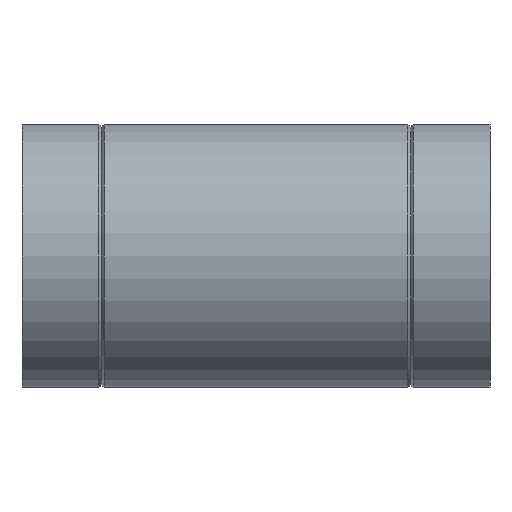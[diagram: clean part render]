
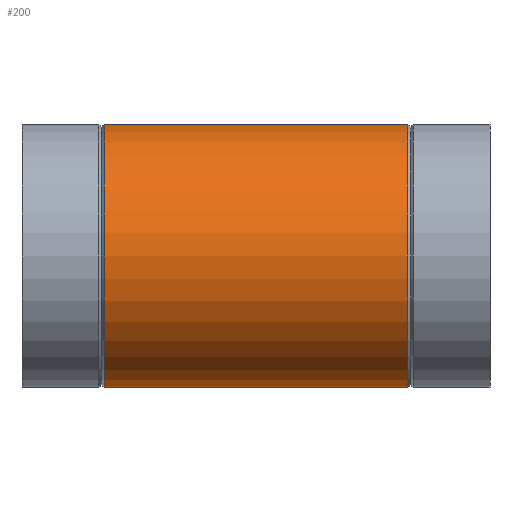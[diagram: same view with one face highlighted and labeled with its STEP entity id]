
A CAD part, left-side view. The second image highlights one B-rep face of the part: STEP entity #200.
In plain terms, the highlighted cylindrical face has radius 157.5 mm (diameter 315 mm), a full revolution.
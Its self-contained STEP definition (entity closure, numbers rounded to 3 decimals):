
#15=B_SPLINE_CURVE_WITH_KNOTS($,3,(#325,#326,#327,#328,#329,#330,#331,#332,
#333,#334,#335,#336,#337,#338,#339,#340,#341,#342,#343,#344,#345,#346,#347,
#348,#349,#350,#351,#352,#353,#354,#355,#356,#357,#358,#359,#360,#361,#362,
#363,#364,#365,#366,#367,#368,#369,#370,#371,#372,#373,#374,#375,#376,#377,
#378,#379,#380,#381,#382,#383,#384,#385,#386,#387,#388,#389,#390,#391,#392,
#393,#394,#395,#396,#397,#398),.UNSPECIFIED.,.T.,.F.,(4,2,2,2,2,2,2,2,2,
2,2,2,2,2,2,2,2,2,2,2,2,2,2,2,2,2,2,2,2,2,2,2,2,2,2,2,4),(0.,1.291,
2.583,5.166,7.748,10.331,12.813,
15.294,17.776,20.258,22.739,25.221,
27.703,30.185,32.767,35.35,37.933,
39.224,40.516,41.782,43.048,45.581,
48.113,50.646,53.127,55.607,58.088,
60.569,63.05,65.53,68.011,70.492,
73.024,75.557,78.09,79.356,80.622),
 .UNSPECIFIED.);
#17=CYLINDRICAL_SURFACE($,#222,157.5);
#26=FACE_BOUND($,#63,.T.);
#27=FACE_BOUND($,#64,.T.);
#48=FACE_OUTER_BOUND($,#62,.T.);
#62=EDGE_LOOP($,(#145));
#63=EDGE_LOOP($,(#146));
#64=EDGE_LOOP($,(#147));
#94=CIRCLE($,#221,157.5);
#95=CIRCLE($,#223,157.5);
#109=VERTEX_POINT($,#319);
#110=VERTEX_POINT($,#322);
#111=VERTEX_POINT($,#324);
#126=EDGE_CURVE($,#109,#109,#94,.T.);
#127=EDGE_CURVE($,#110,#110,#95,.T.);
#128=EDGE_CURVE($,#111,#111,#15,.T.);
#145=ORIENTED_EDGE($,*,*,#127,.T.);
#146=ORIENTED_EDGE($,*,*,#128,.T.);
#147=ORIENTED_EDGE($,*,*,#126,.T.);
#200=ADVANCED_FACE($,(#48,#26,#27),#17,.T.);
#221=AXIS2_PLACEMENT_3D($,#320,#258,#259);
#222=AXIS2_PLACEMENT_3D($,#321,#260,#261);
#223=AXIS2_PLACEMENT_3D($,#323,#262,#263);
#258=DIRECTION('center_axis',(0.,-1.,0.));
#259=DIRECTION('ref_axis',(1.,0.,0.));
#260=DIRECTION('center_axis',(0.,1.,0.));
#261=DIRECTION('ref_axis',(1.,0.,0.));
#262=DIRECTION('center_axis',(0.,1.,0.));
#263=DIRECTION('ref_axis',(1.,0.,0.));
#319=CARTESIAN_POINT('',(157.5,461.85,0.));
#320=CARTESIAN_POINT('Origin',(0.,461.85,0.));
#321=CARTESIAN_POINT('Origin',(0.,0.,0.));
#322=CARTESIAN_POINT('',(-157.5,98.15,0.));
#323=CARTESIAN_POINT('Origin',(0.,98.15,0.));
#324=CARTESIAN_POINT('',(95.819,282.509,125.));
#325=CARTESIAN_POINT('Ctrl Pts',(95.819,282.509,125.));
#326=CARTESIAN_POINT('Ctrl Pts',(95.819,286.814,125.));
#327=CARTESIAN_POINT('Ctrl Pts',(96.111,291.104,124.778));
#328=CARTESIAN_POINT('Ctrl Pts',(97.234,299.604,123.905));
#329=CARTESIAN_POINT('Ctrl Pts',(98.064,303.813,123.254));
#330=CARTESIAN_POINT('Ctrl Pts',(101.224,316.253,120.695));
#331=CARTESIAN_POINT('Ctrl Pts',(104.224,324.296,118.177));
#332=CARTESIAN_POINT('Ctrl Pts',(111.114,339.589,111.723));
#333=CARTESIAN_POINT('Ctrl Pts',(115.001,346.849,107.782));
#334=CARTESIAN_POINT('Ctrl Pts',(122.852,360.314,98.74));
#335=CARTESIAN_POINT('Ctrl Pts',(126.815,366.516,93.636));
#336=CARTESIAN_POINT('Ctrl Pts',(134.053,377.37,82.923));
#337=CARTESIAN_POINT('Ctrl Pts',(137.621,382.468,76.949));
#338=CARTESIAN_POINT('Ctrl Pts',(144.203,391.621,63.766));
#339=CARTESIAN_POINT('Ctrl Pts',(147.215,395.675,56.556));
#340=CARTESIAN_POINT('Ctrl Pts',(152.205,402.304,41.283));
#341=CARTESIAN_POINT('Ctrl Pts',(154.187,404.883,33.202));
#342=CARTESIAN_POINT('Ctrl Pts',(156.835,408.315,16.697));
#343=CARTESIAN_POINT('Ctrl Pts',(157.5,409.167,8.272));
#344=CARTESIAN_POINT('Ctrl Pts',(157.5,409.167,-8.272));
#345=CARTESIAN_POINT('Ctrl Pts',(156.835,408.315,-16.697));
#346=CARTESIAN_POINT('Ctrl Pts',(154.187,404.883,-33.202));
#347=CARTESIAN_POINT('Ctrl Pts',(152.205,402.304,-41.283));
#348=CARTESIAN_POINT('Ctrl Pts',(147.215,395.675,-56.556));
#349=CARTESIAN_POINT('Ctrl Pts',(144.203,391.621,-63.766));
#350=CARTESIAN_POINT('Ctrl Pts',(137.621,382.468,-76.949));
#351=CARTESIAN_POINT('Ctrl Pts',(134.053,377.37,-82.923));
#352=CARTESIAN_POINT('Ctrl Pts',(126.815,366.516,-93.636));
#353=CARTESIAN_POINT('Ctrl Pts',(122.852,360.314,-98.74));
#354=CARTESIAN_POINT('Ctrl Pts',(115.001,346.849,-107.782));
#355=CARTESIAN_POINT('Ctrl Pts',(111.114,339.589,-111.723));
#356=CARTESIAN_POINT('Ctrl Pts',(104.224,324.296,-118.177));
#357=CARTESIAN_POINT('Ctrl Pts',(101.224,316.253,-120.695));
#358=CARTESIAN_POINT('Ctrl Pts',(98.064,303.813,-123.254));
#359=CARTESIAN_POINT('Ctrl Pts',(97.234,299.604,-123.905));
#360=CARTESIAN_POINT('Ctrl Pts',(96.111,291.104,-124.778));
#361=CARTESIAN_POINT('Ctrl Pts',(95.819,286.814,-125.));
#362=CARTESIAN_POINT('Ctrl Pts',(95.819,278.288,-125.));
#363=CARTESIAN_POINT('Ctrl Pts',(96.1,274.079,-124.786));
#364=CARTESIAN_POINT('Ctrl Pts',(97.192,265.74,-123.937));
#365=CARTESIAN_POINT('Ctrl Pts',(98.002,261.611,-123.303));
#366=CARTESIAN_POINT('Ctrl Pts',(101.103,249.421,-120.795));
#367=CARTESIAN_POINT('Ctrl Pts',(104.067,241.554,-118.314));
#368=CARTESIAN_POINT('Ctrl Pts',(110.902,226.643,-111.933));
#369=CARTESIAN_POINT('Ctrl Pts',(114.769,219.586,-108.026));
#370=CARTESIAN_POINT('Ctrl Pts',(122.589,206.532,-99.063));
#371=CARTESIAN_POINT('Ctrl Pts',(126.541,200.537,-94.002));
#372=CARTESIAN_POINT('Ctrl Pts',(133.823,189.97,-83.299));
#373=CARTESIAN_POINT('Ctrl Pts',(137.442,184.982,-77.273));
#374=CARTESIAN_POINT('Ctrl Pts',(144.107,176.056,-63.989));
#375=CARTESIAN_POINT('Ctrl Pts',(147.151,172.117,-56.73));
#376=CARTESIAN_POINT('Ctrl Pts',(152.184,165.695,-41.372));
#377=CARTESIAN_POINT('Ctrl Pts',(154.177,163.205,-33.256));
#378=CARTESIAN_POINT('Ctrl Pts',(156.836,159.898,-16.705));
#379=CARTESIAN_POINT('Ctrl Pts',(157.5,159.081,-8.269));
#380=CARTESIAN_POINT('Ctrl Pts',(157.5,159.081,8.269));
#381=CARTESIAN_POINT('Ctrl Pts',(156.836,159.898,16.705));
#382=CARTESIAN_POINT('Ctrl Pts',(154.177,163.205,33.256));
#383=CARTESIAN_POINT('Ctrl Pts',(152.184,165.695,41.372));
#384=CARTESIAN_POINT('Ctrl Pts',(147.151,172.117,56.73));
#385=CARTESIAN_POINT('Ctrl Pts',(144.107,176.056,63.989));
#386=CARTESIAN_POINT('Ctrl Pts',(137.442,184.982,77.273));
#387=CARTESIAN_POINT('Ctrl Pts',(133.823,189.97,83.299));
#388=CARTESIAN_POINT('Ctrl Pts',(126.541,200.537,94.002));
#389=CARTESIAN_POINT('Ctrl Pts',(122.589,206.532,99.063));
#390=CARTESIAN_POINT('Ctrl Pts',(114.769,219.586,108.026));
#391=CARTESIAN_POINT('Ctrl Pts',(110.902,226.643,111.933));
#392=CARTESIAN_POINT('Ctrl Pts',(104.067,241.554,118.314));
#393=CARTESIAN_POINT('Ctrl Pts',(101.103,249.421,120.795));
#394=CARTESIAN_POINT('Ctrl Pts',(98.002,261.611,123.303));
#395=CARTESIAN_POINT('Ctrl Pts',(97.192,265.74,123.937));
#396=CARTESIAN_POINT('Ctrl Pts',(96.1,274.079,124.786));
#397=CARTESIAN_POINT('Ctrl Pts',(95.819,278.288,125.));
#398=CARTESIAN_POINT('Ctrl Pts',(95.819,282.509,125.));
